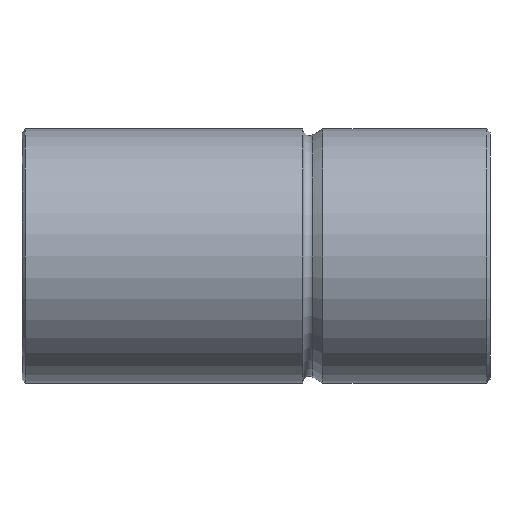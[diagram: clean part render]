
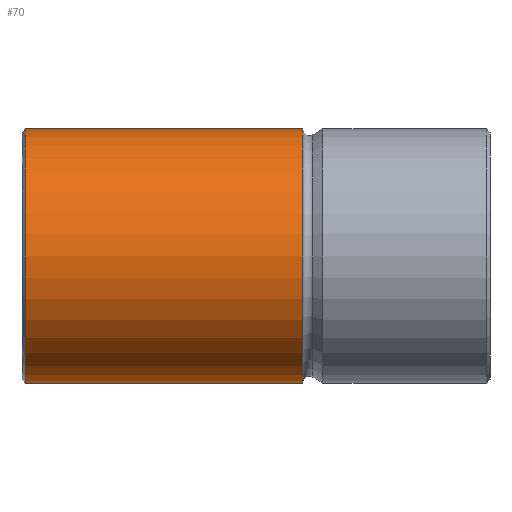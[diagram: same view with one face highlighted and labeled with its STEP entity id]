
A CAD part, front view. The second image highlights one B-rep face of the part: STEP entity #70.
In plain terms, the highlighted cylindrical face has radius 19.02 mm (diameter 38.04 mm), a full revolution.
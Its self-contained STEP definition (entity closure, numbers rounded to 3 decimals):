
#70 = ADVANCED_FACE( '', ( #150, #151, #152 ), #153, .T. );
#150 = FACE_OUTER_BOUND( '', #223, .T. );
#151 = FACE_BOUND( '', #224, .T. );
#152 = FACE_OUTER_BOUND( '', #225, .T. );
#153 = CYLINDRICAL_SURFACE( '', #226, 19.02 );
#223 = EDGE_LOOP( '', ( #320 ) );
#224 = EDGE_LOOP( '', ( #321 ) );
#225 = EDGE_LOOP( '', ( #322 ) );
#226 = AXIS2_PLACEMENT_3D( '', #323, #324, #325 );
#320 = ORIENTED_EDGE( '', *, *, #355, .T. );
#321 = ORIENTED_EDGE( '', *, *, #334, .T. );
#322 = ORIENTED_EDGE( '', *, *, #346, .F. );
#323 = CARTESIAN_POINT( '', ( 0., 0., 0. ) );
#324 = DIRECTION( '', ( -1., 0., 0. ) );
#325 = DIRECTION( '', ( 0., 0., -1. ) );
#334 = EDGE_CURVE( '', #372, #372, #373, .T. );
#346 = EDGE_CURVE( '', #391, #391, #392, .T. );
#355 = EDGE_CURVE( '', #404, #404, #405, .T. );
#372 = VERTEX_POINT( '', #475 );
#373 = B_SPLINE_CURVE_WITH_KNOTS( '', 3, ( #476, #477, #478, #479, #480, #481, #482, #483, #484, #485, #486, #487, #488, #489, #490, #491, #492, #493, #494, #495, #496, #497, #498, #499, #500, #501, #502, #503, #504, #505, #506, #507, #508, #509, #510, #511, #512, #513, #514, #515, #516, #517, #518, #519, #520, #521, #522, #523, #524, #525, #526, #527, #528, #529, #530, #531, #532, #533, #534, #535, #536, #537 ), .UNSPECIFIED., .T., .F., ( 2, 2, 2, 2, 2, 2, 2, 2, 2, 2, 2, 2, 2, 2, 2, 2, 2, 2, 2, 2, 2, 2, 2, 2, 2, 2, 2, 2, 2, 2, 2, 2, 2 ), ( -0.001, 0., 0., 0.001, 0.001, 0.002, 0.002, 0.003, 0.003, 0.004, 0.004, 0.005, 0.005, 0.006, 0.006, 0.007, 0.007, 0.008, 0.008, 0.009, 0.009, 0.01, 0.01, 0.011, 0.011, 0.012, 0.012, 0.013, 0.013, 0.014, 0.015, 0.016, 0.016 ), .UNSPECIFIED. );
#391 = VERTEX_POINT( '', #555 );
#392 = CIRCLE( '', #556, 19.02 );
#404 = VERTEX_POINT( '', #568 );
#405 = CIRCLE( '', #569, 19.02 );
#475 = CARTESIAN_POINT( '', ( -60., 18.855, -2.5 ) );
#476 = CARTESIAN_POINT( '', ( -60.331, 18.855, -2.5 ) );
#477 = CARTESIAN_POINT( '', ( -59.835, 18.855, -2.5 ) );
#478 = CARTESIAN_POINT( '', ( -59.672, 18.857, -2.484 ) );
#479 = CARTESIAN_POINT( '', ( -59.352, 18.865, -2.42 ) );
#480 = CARTESIAN_POINT( '', ( -59.193, 18.872, -2.372 ) );
#481 = CARTESIAN_POINT( '', ( -58.891, 18.887, -2.246 ) );
#482 = CARTESIAN_POINT( '', ( -58.747, 18.896, -2.17 ) );
#483 = CARTESIAN_POINT( '', ( -58.476, 18.916, -1.988 ) );
#484 = CARTESIAN_POINT( '', ( -58.347, 18.927, -1.883 ) );
#485 = CARTESIAN_POINT( '', ( -58.117, 18.948, -1.652 ) );
#486 = CARTESIAN_POINT( '', ( -58.013, 18.959, -1.527 ) );
#487 = CARTESIAN_POINT( '', ( -57.831, 18.979, -1.253 ) );
#488 = CARTESIAN_POINT( '', ( -57.753, 18.988, -1.108 ) );
#489 = CARTESIAN_POINT( '', ( -57.628, 19.003, -0.807 ) );
#490 = CARTESIAN_POINT( '', ( -57.58, 19.01, -0.65 ) );
#491 = CARTESIAN_POINT( '', ( -57.516, 19.018, -0.327 ) );
#492 = CARTESIAN_POINT( '', ( -57.5, 19.02, -0.165 ) );
#493 = CARTESIAN_POINT( '', ( -57.5, 19.02, 0.162 ) );
#494 = CARTESIAN_POINT( '', ( -57.516, 19.018, 0.328 ) );
#495 = CARTESIAN_POINT( '', ( -57.58, 19.01, 0.648 ) );
#496 = CARTESIAN_POINT( '', ( -57.627, 19.004, 0.804 ) );
#497 = CARTESIAN_POINT( '', ( -57.753, 18.988, 1.107 ) );
#498 = CARTESIAN_POINT( '', ( -57.831, 18.979, 1.253 ) );
#499 = CARTESIAN_POINT( '', ( -58.012, 18.959, 1.524 ) );
#500 = CARTESIAN_POINT( '', ( -58.115, 18.949, 1.65 ) );
#501 = CARTESIAN_POINT( '', ( -58.348, 18.927, 1.884 ) );
#502 = CARTESIAN_POINT( '', ( -58.474, 18.916, 1.987 ) );
#503 = CARTESIAN_POINT( '', ( -58.745, 18.896, 2.168 ) );
#504 = CARTESIAN_POINT( '', ( -58.891, 18.887, 2.247 ) );
#505 = CARTESIAN_POINT( '', ( -59.194, 18.872, 2.372 ) );
#506 = CARTESIAN_POINT( '', ( -59.349, 18.866, 2.419 ) );
#507 = CARTESIAN_POINT( '', ( -59.67, 18.857, 2.484 ) );
#508 = CARTESIAN_POINT( '', ( -59.836, 18.855, 2.5 ) );
#509 = CARTESIAN_POINT( '', ( -60.162, 18.855, 2.5 ) );
#510 = CARTESIAN_POINT( '', ( -60.325, 18.857, 2.484 ) );
#511 = CARTESIAN_POINT( '', ( -60.648, 18.865, 2.42 ) );
#512 = CARTESIAN_POINT( '', ( -60.805, 18.872, 2.372 ) );
#513 = CARTESIAN_POINT( '', ( -61.106, 18.887, 2.248 ) );
#514 = CARTESIAN_POINT( '', ( -61.252, 18.896, 2.17 ) );
#515 = CARTESIAN_POINT( '', ( -61.525, 18.916, 1.988 ) );
#516 = CARTESIAN_POINT( '', ( -61.651, 18.927, 1.885 ) );
#517 = CARTESIAN_POINT( '', ( -61.881, 18.948, 1.654 ) );
#518 = CARTESIAN_POINT( '', ( -61.987, 18.959, 1.526 ) );
#519 = CARTESIAN_POINT( '', ( -62.169, 18.979, 1.255 ) );
#520 = CARTESIAN_POINT( '', ( -62.245, 18.988, 1.111 ) );
#521 = CARTESIAN_POINT( '', ( -62.371, 19.003, 0.809 ) );
#522 = CARTESIAN_POINT( '', ( -62.42, 19.01, 0.65 ) );
#523 = CARTESIAN_POINT( '', ( -62.483, 19.018, 0.33 ) );
#524 = CARTESIAN_POINT( '', ( -62.5, 19.02, 0.168 ) );
#525 = CARTESIAN_POINT( '', ( -62.5, 19.02, -0.163 ) );
#526 = CARTESIAN_POINT( '', ( -62.484, 19.018, -0.326 ) );
#527 = CARTESIAN_POINT( '', ( -62.421, 19.01, -0.645 ) );
#528 = CARTESIAN_POINT( '', ( -62.373, 19.004, -0.804 ) );
#529 = CARTESIAN_POINT( '', ( -62.247, 18.988, -1.107 ) );
#530 = CARTESIAN_POINT( '', ( -62.171, 18.979, -1.251 ) );
#531 = CARTESIAN_POINT( '', ( -61.99, 18.959, -1.523 ) );
#532 = CARTESIAN_POINT( '', ( -61.884, 18.949, -1.651 ) );
#533 = CARTESIAN_POINT( '', ( -61.539, 18.916, -1.997 ) );
#534 = CARTESIAN_POINT( '', ( -61.261, 18.895, -2.183 ) );
#535 = CARTESIAN_POINT( '', ( -60.659, 18.864, -2.433 ) );
#536 = CARTESIAN_POINT( '', ( -60.331, 18.855, -2.5 ) );
#537 = CARTESIAN_POINT( '', ( -59.835, 18.855, -2.5 ) );
#555 = CARTESIAN_POINT( '', ( -28., 0., -19.02 ) );
#556 = AXIS2_PLACEMENT_3D( '', #603, #604, #605 );
#568 = CARTESIAN_POINT( '', ( -69.5, 0., -19.02 ) );
#569 = AXIS2_PLACEMENT_3D( '', #615, #616, #617 );
#603 = CARTESIAN_POINT( '', ( -28., 0., 0. ) );
#604 = DIRECTION( '', ( 1., 0., 0. ) );
#605 = DIRECTION( '', ( 0., 0., -1. ) );
#615 = CARTESIAN_POINT( '', ( -69.5, 0., 0. ) );
#616 = DIRECTION( '', ( 1., 0., 0. ) );
#617 = DIRECTION( '', ( 0., 0., -1. ) );
